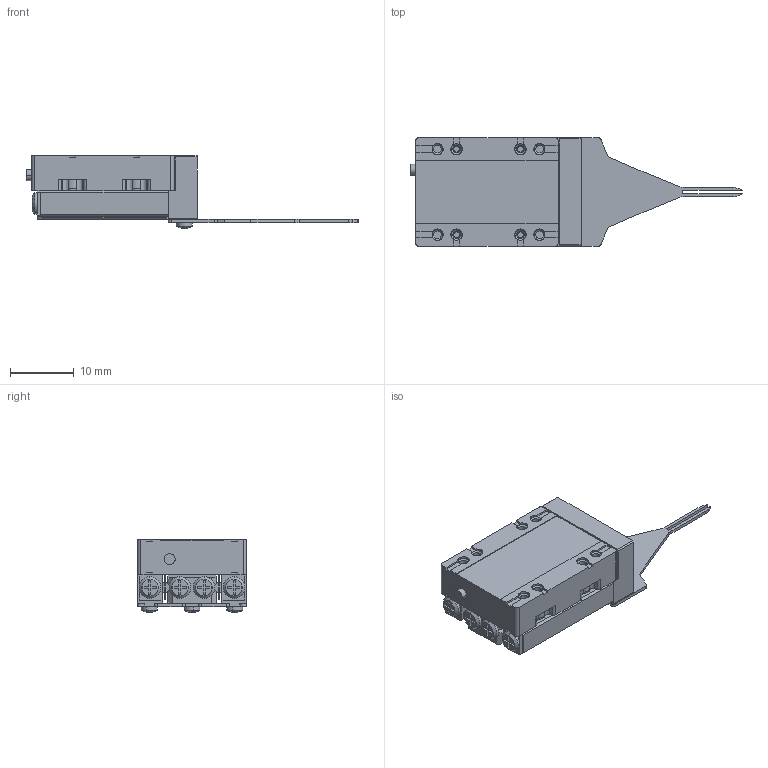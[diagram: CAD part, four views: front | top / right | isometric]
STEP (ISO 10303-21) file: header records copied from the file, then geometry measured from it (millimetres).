
FILE_DESCRIPTION (( 'STEP AP214' ), '1' );
FILE_NAME ('YGPU-P01.STEP', '2026-06-11T03:45:51', ( '' ), ( '' ), 'SwSTEP 2.0', 'SolidWorks 2022', '' );
FILE_SCHEMA (( 'AUTOMOTIVE_DESIGN' ));
Length unit declared in the file: millimetre
Products named in the file (1): YGPU-P01
Bounding box: 52.02 x 17 x 11.38 mm (x, y, z)
Volume: 3868 mm3; surface area: 4837.8 mm2
Topology: 26 solids, 26 shells, 875 faces, 2120 edges, 1315 vertices
Faces by surface type: plane 472, cylinder 215, cone 144, torus 22, sphere 22
Entity records: 35488 total; most frequent: DIRECTION 4650, CARTESIAN_POINT 4487, ORIENTED_EDGE 4224, EDGE_CURVE 2112, AXIS2_PLACEMENT_3D 1686, VERTEX_POINT 1311, LINE 1278, VECTOR 1278
